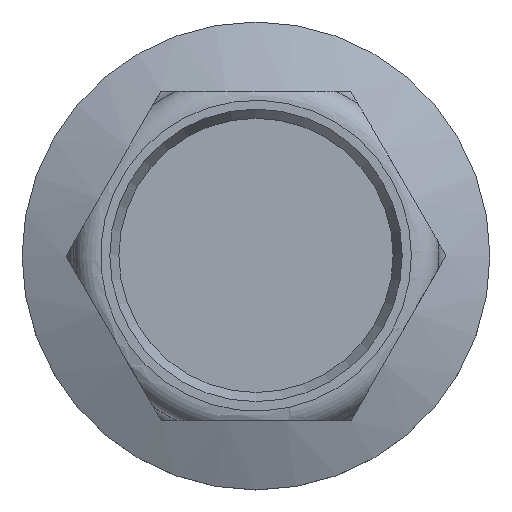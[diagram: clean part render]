
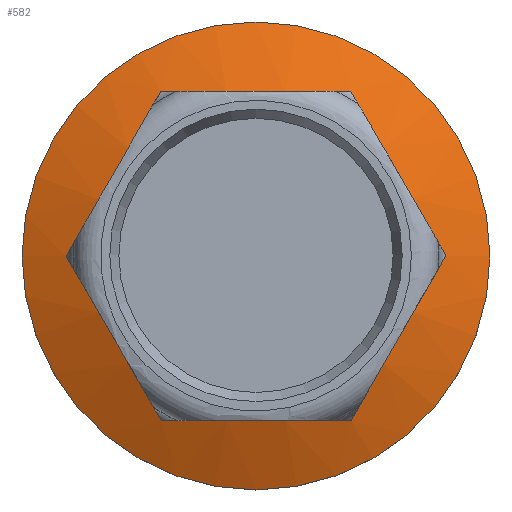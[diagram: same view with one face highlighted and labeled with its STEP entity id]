
A CAD part, top view. The second image highlights one B-rep face of the part: STEP entity #582.
In plain terms, the highlighted conical face has half-angle 66.679 degrees and reference radius 10.16 mm.
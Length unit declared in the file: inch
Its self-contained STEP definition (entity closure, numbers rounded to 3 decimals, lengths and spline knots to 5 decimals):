
#24=CONICAL_SURFACE('',#631,0.4,66.679);
#26=(
BOUNDED_CURVE()
B_SPLINE_CURVE(2,(#1080,#1081,#1082),.UNSPECIFIED.,.F.,.F.)
B_SPLINE_CURVE_WITH_KNOTS((3,3),(0.,0.83037),.UNSPECIFIED.)
CURVE()
GEOMETRIC_REPRESENTATION_ITEM()
RATIONAL_B_SPLINE_CURVE((1.,1.155,1.))
REPRESENTATION_ITEM('')
);
#27=(
BOUNDED_CURVE()
B_SPLINE_CURVE(2,(#1087,#1088,#1089),.UNSPECIFIED.,.F.,.F.)
B_SPLINE_CURVE_WITH_KNOTS((3,3),(0.,0.83037),.UNSPECIFIED.)
CURVE()
GEOMETRIC_REPRESENTATION_ITEM()
RATIONAL_B_SPLINE_CURVE((1.,1.155,1.))
REPRESENTATION_ITEM('')
);
#28=(
BOUNDED_CURVE()
B_SPLINE_CURVE(2,(#1093,#1094,#1095),.UNSPECIFIED.,.F.,.F.)
B_SPLINE_CURVE_WITH_KNOTS((3,3),(0.,0.83037),.UNSPECIFIED.)
CURVE()
GEOMETRIC_REPRESENTATION_ITEM()
RATIONAL_B_SPLINE_CURVE((1.,1.155,1.))
REPRESENTATION_ITEM('')
);
#29=(
BOUNDED_CURVE()
B_SPLINE_CURVE(2,(#3783,#3784,#3785),.UNSPECIFIED.,.F.,.F.)
B_SPLINE_CURVE_WITH_KNOTS((3,3),(0.,0.83037),.UNSPECIFIED.)
CURVE()
GEOMETRIC_REPRESENTATION_ITEM()
RATIONAL_B_SPLINE_CURVE((1.,1.155,1.))
REPRESENTATION_ITEM('')
);
#30=(
BOUNDED_CURVE()
B_SPLINE_CURVE(2,(#3789,#3790,#3791),.UNSPECIFIED.,.F.,.F.)
B_SPLINE_CURVE_WITH_KNOTS((3,3),(0.,0.83037),.UNSPECIFIED.)
CURVE()
GEOMETRIC_REPRESENTATION_ITEM()
RATIONAL_B_SPLINE_CURVE((1.,1.155,1.))
REPRESENTATION_ITEM('')
);
#31=(
BOUNDED_CURVE()
B_SPLINE_CURVE(2,(#3794,#3795,#3796),.UNSPECIFIED.,.F.,.F.)
B_SPLINE_CURVE_WITH_KNOTS((3,3),(0.,0.83037),.UNSPECIFIED.)
CURVE()
GEOMETRIC_REPRESENTATION_ITEM()
RATIONAL_B_SPLINE_CURVE((1.,1.155,1.))
REPRESENTATION_ITEM('')
);
#101=FACE_BOUND('',#176,.T.);
#136=FACE_OUTER_BOUND('',#175,.T.);
#175=EDGE_LOOP('',(#517));
#176=EDGE_LOOP('',(#518,#519,#520,#521,#522,#523));
#205=CIRCLE('',#632,0.4);
#270=VERTEX_POINT('',#1077);
#271=VERTEX_POINT('',#1079);
#272=VERTEX_POINT('',#1085);
#273=VERTEX_POINT('',#1091);
#290=VERTEX_POINT('',#3782);
#291=VERTEX_POINT('',#3788);
#292=VERTEX_POINT('',#3799);
#340=EDGE_CURVE('',#271,#270,#26,.T.);
#343=EDGE_CURVE('',#270,#272,#27,.T.);
#345=EDGE_CURVE('',#272,#273,#28,.T.);
#369=EDGE_CURVE('',#290,#271,#29,.T.);
#371=EDGE_CURVE('',#291,#290,#30,.T.);
#373=EDGE_CURVE('',#273,#291,#31,.T.);
#374=EDGE_CURVE('',#292,#292,#205,.T.);
#517=ORIENTED_EDGE('',*,*,#374,.T.);
#518=ORIENTED_EDGE('',*,*,#343,.T.);
#519=ORIENTED_EDGE('',*,*,#345,.T.);
#520=ORIENTED_EDGE('',*,*,#373,.T.);
#521=ORIENTED_EDGE('',*,*,#371,.T.);
#522=ORIENTED_EDGE('',*,*,#369,.T.);
#523=ORIENTED_EDGE('',*,*,#340,.T.);
#582=ADVANCED_FACE('',(#136,#101),#24,.T.);
#631=AXIS2_PLACEMENT_3D('',#3798,#750,#751);
#632=AXIS2_PLACEMENT_3D('',#3800,#752,#753);
#750=DIRECTION('center_axis',(0.,0.,-1.));
#751=DIRECTION('ref_axis',(1.,0.,0.));
#752=DIRECTION('center_axis',(0.,0.,1.));
#753=DIRECTION('ref_axis',(1.,0.,0.));
#1077=CARTESIAN_POINT('',(0.32476,0.00047,-0.28006));
#1079=CARTESIAN_POINT('',(0.16197,0.28149,-0.28006));
#1080=CARTESIAN_POINT('Ctrl Pts',(0.16197,0.28149,-0.28006));
#1081=CARTESIAN_POINT('Ctrl Pts',(0.24337,0.14098,-0.24506));
#1082=CARTESIAN_POINT('Ctrl Pts',(0.32476,0.00047,
-0.28006));
#1085=CARTESIAN_POINT('',(0.16279,-0.28101,-0.28006));
#1087=CARTESIAN_POINT('Ctrl Pts',(0.32476,0.00047,
-0.28006));
#1088=CARTESIAN_POINT('Ctrl Pts',(0.24377,-0.14027,-0.24506));
#1089=CARTESIAN_POINT('Ctrl Pts',(0.16279,-0.28101,-0.28006));
#1091=CARTESIAN_POINT('',(-0.16197,-0.28149,-0.28006));
#1093=CARTESIAN_POINT('Ctrl Pts',(0.16279,-0.28101,-0.28006));
#1094=CARTESIAN_POINT('Ctrl Pts',(0.00041,-0.28125,
-0.24506));
#1095=CARTESIAN_POINT('Ctrl Pts',(-0.16197,-0.28149,
-0.28006));
#3782=CARTESIAN_POINT('',(-0.16279,0.28101,-0.28006));
#3783=CARTESIAN_POINT('Ctrl Pts',(-0.16279,0.28101,
-0.28006));
#3784=CARTESIAN_POINT('Ctrl Pts',(-0.00041,0.28125,
-0.24506));
#3785=CARTESIAN_POINT('Ctrl Pts',(0.16197,0.28149,-0.28006));
#3788=CARTESIAN_POINT('',(-0.32476,-0.00047,-0.28006));
#3789=CARTESIAN_POINT('Ctrl Pts',(-0.32476,-0.00047,
-0.28006));
#3790=CARTESIAN_POINT('Ctrl Pts',(-0.24377,0.14027,
-0.24506));
#3791=CARTESIAN_POINT('Ctrl Pts',(-0.16279,0.28101,-0.28006));
#3794=CARTESIAN_POINT('Ctrl Pts',(-0.16197,-0.28149,
-0.28006));
#3795=CARTESIAN_POINT('Ctrl Pts',(-0.24337,-0.14098,
-0.24506));
#3796=CARTESIAN_POINT('Ctrl Pts',(-0.32476,-0.00047,
-0.28006));
#3798=CARTESIAN_POINT('Origin',(0.,0.,-0.3125));
#3799=CARTESIAN_POINT('',(0.4,0.,-0.3125));
#3800=CARTESIAN_POINT('Origin',(0.,0.,-0.3125));
